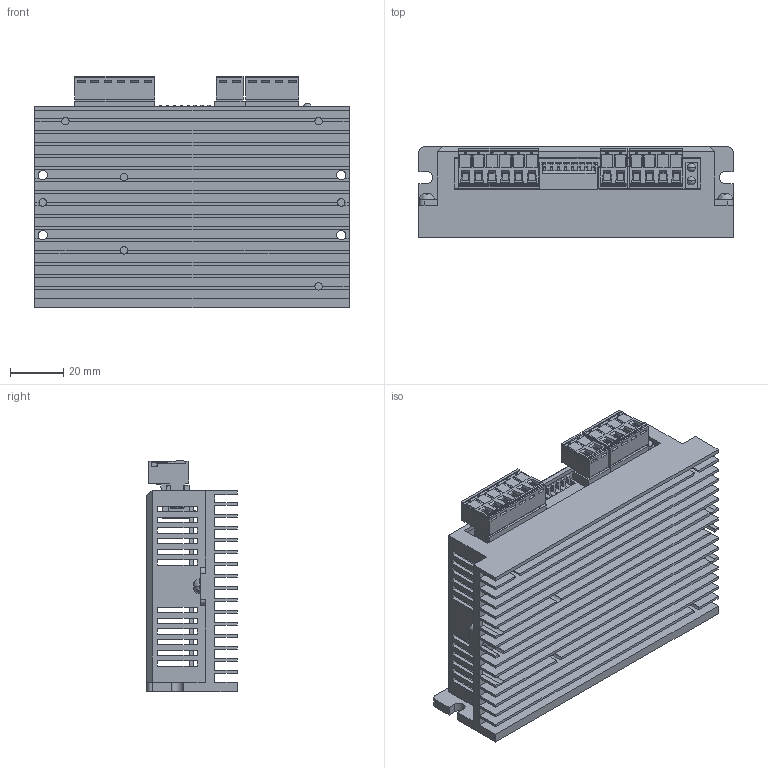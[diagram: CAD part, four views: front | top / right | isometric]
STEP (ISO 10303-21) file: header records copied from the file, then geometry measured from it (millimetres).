
FILE_DESCRIPTION((''),'2;1');
FILE_NAME('R57','2025-03-20T09:38:45',('ruiwe'),(''),'CREO PARAMETRIC BY PTC INC, 2021063','CREO PARAMETRIC BY PTC INC, 2021063','');
FILE_SCHEMA(('CONFIG_CONTROL_DESIGN','SHAPE_APPEARANCE_LAYERS_GROUPS'));
Products named in the file (1): R57
Bounding box: 118 x 34.01 x 86.83 mm (x, y, z)
Volume: 93323.6 mm3; surface area: 114649.2 mm2
Topology: 14 solids, 234 shells, 4586 faces, 15509 edges, 11249 vertices
Faces by surface type: plane 3088, cylinder 845, bspline 343, torus 184, cone 114, sphere 12
Entity records: 202914 total; most frequent: CARTESIAN_POINT 54595, ORIENTED_EDGE 27344, DIRECTION 23339, EDGE_CURVE 15497, VERTEX_POINT 11287, VECTOR 10527, LINE 10527, AXIS2_PLACEMENT_3D 6406
